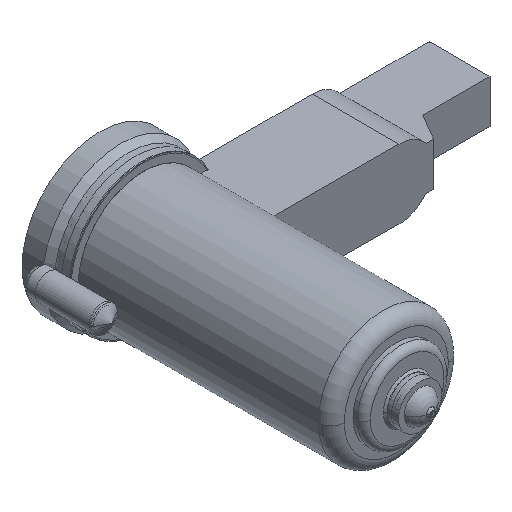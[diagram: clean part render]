
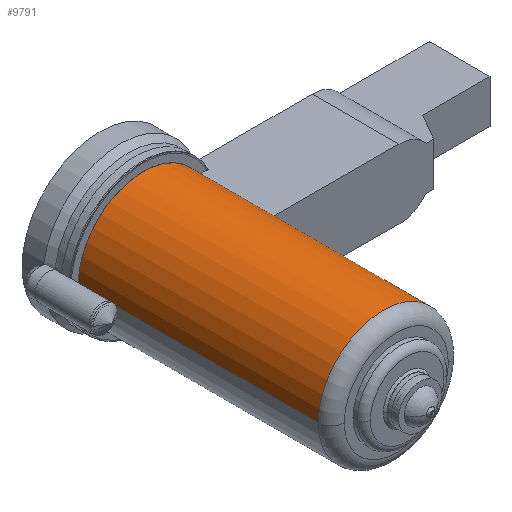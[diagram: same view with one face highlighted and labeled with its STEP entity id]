
A CAD part, isometric view. The second image highlights one B-rep face of the part: STEP entity #9791.
In plain terms, the highlighted cylindrical face has radius 15 mm (diameter 30 mm), a partial arc.
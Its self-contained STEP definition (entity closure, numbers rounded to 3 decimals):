
#9058=CARTESIAN_POINT('',(0.,-27.,0.));
#9059=DIRECTION('',(0.,-1.,0.));
#9060=DIRECTION('',(1.,0.,0.));
#9061=AXIS2_PLACEMENT_3D('',#9058,#9059,#9060);
#9063=CARTESIAN_POINT('',(0.,-65.381,0.));
#9064=DIRECTION('',(0.,-1.,0.));
#9065=DIRECTION('',(1.,0.,0.));
#9066=AXIS2_PLACEMENT_3D('',#9063,#9064,#9065);
#9068=DIRECTION('',(0.,-1.,0.));
#9069=VECTOR('',#9068,17.);
#9070=CARTESIAN_POINT('',(12.689,-10.,8.));
#9071=LINE('',#9070,#9069);
#9190=CARTESIAN_POINT('',(0.,-10.,0.));
#9191=DIRECTION('',(0.,-1.,0.));
#9192=DIRECTION('',(0.846,0.,0.533));
#9193=AXIS2_PLACEMENT_3D('',#9190,#9191,#9192);
#9253=DIRECTION('',(0.,1.,0.));
#9254=VECTOR('',#9253,55.381);
#9255=CARTESIAN_POINT('',(-15.,-65.381,0.));
#9256=LINE('',#9255,#9254);
#9262=DIRECTION('',(0.,1.,0.));
#9263=VECTOR('',#9262,38.381);
#9264=CARTESIAN_POINT('',(15.,-65.381,0.));
#9265=LINE('',#9264,#9263);
#9381=CARTESIAN_POINT('',(15.,-65.381,0.));
#9383=VERTEX_POINT('',#9381);
#9391=CARTESIAN_POINT('',(-15.,-65.381,0.));
#9393=VERTEX_POINT('',#9391);
#9394=CARTESIAN_POINT('',(-15.,-10.,0.));
#9395=VERTEX_POINT('',#9394);
#9434=CARTESIAN_POINT('',(15.,-27.,0.));
#9435=CARTESIAN_POINT('',(12.689,-27.,8.));
#9436=VERTEX_POINT('',#9434);
#9437=VERTEX_POINT('',#9435);
#9438=CARTESIAN_POINT('',(12.689,-10.,8.));
#9439=VERTEX_POINT('',#9438);
#9773=CARTESIAN_POINT('',(0.,3.818,0.));
#9774=DIRECTION('',(0.,-1.,0.));
#9775=DIRECTION('',(-1.,0.,0.));
#9776=AXIS2_PLACEMENT_3D('',#9773,#9774,#9775);
#9777=CYLINDRICAL_SURFACE('',#9776,15.);
#9779=ORIENTED_EDGE('',*,*,#9778,.F.);
#9781=ORIENTED_EDGE('',*,*,#9780,.F.);
#9782=ORIENTED_EDGE('',*,*,#9768,.T.);
#9784=ORIENTED_EDGE('',*,*,#9783,.T.);
#9786=ORIENTED_EDGE('',*,*,#9785,.F.);
#9788=ORIENTED_EDGE('',*,*,#9787,.T.);
#9789=EDGE_LOOP('',(#9779,#9781,#9782,#9784,#9786,#9788));
#9790=FACE_OUTER_BOUND('',#9789,.F.);
#9791=ADVANCED_FACE('',(#9790),#9777,.T.);
#9062=CIRCLE('',#9061,15.);
#9067=CIRCLE('',#9066,15.);
#9194=CIRCLE('',#9193,15.);
#9768=EDGE_CURVE('',#9383,#9393,#9067,.T.);
#9778=EDGE_CURVE('',#9436,#9437,#9062,.T.);
#9780=EDGE_CURVE('',#9383,#9436,#9265,.T.);
#9783=EDGE_CURVE('',#9393,#9395,#9256,.T.);
#9785=EDGE_CURVE('',#9439,#9395,#9194,.T.);
#9787=EDGE_CURVE('',#9439,#9437,#9071,.T.);
